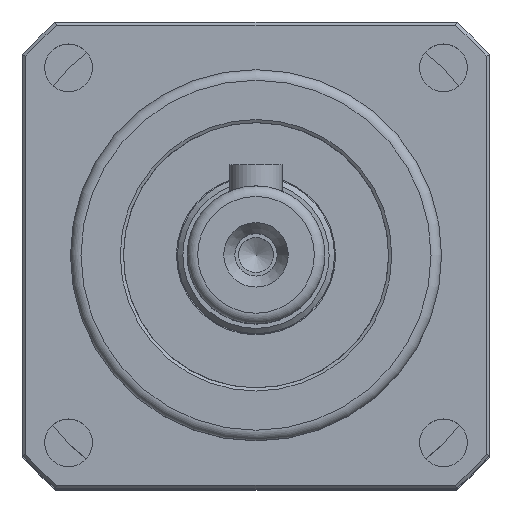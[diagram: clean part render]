
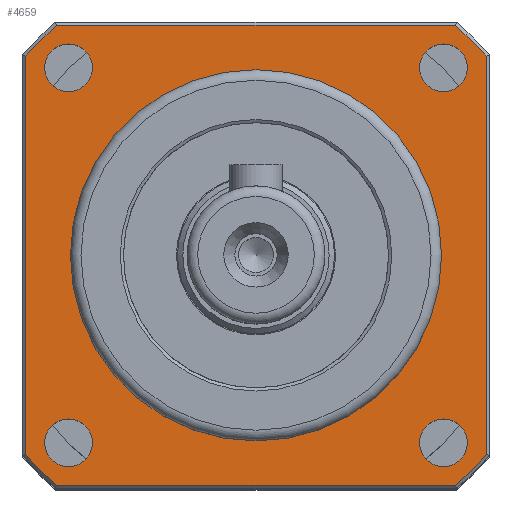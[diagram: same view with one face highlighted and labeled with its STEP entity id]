
A CAD part, top view. The second image highlights one B-rep face of the part: STEP entity #4659.
In plain terms, the highlighted planar face has unit normal (0, 0, 1).
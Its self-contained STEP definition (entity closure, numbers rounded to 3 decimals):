
#3153=CARTESIAN_POINT('',(-15.428,17.678,0.0));
#3154=VERTEX_POINT('',#3153);
#3155=CARTESIAN_POINT('',(-17.678,17.678,0.0));
#3156=DIRECTION('',(0.0,0.0,1.0));
#3157=DIRECTION('',(1.0,0.0,0.0));
#3158=AXIS2_PLACEMENT_3D('',#3155,#3156,#3157);
#3159=CIRCLE('',#3158,2.25);
#3160=EDGE_CURVE('',#3154,#3154,#3159,.T.);
#3181=CARTESIAN_POINT('',(-15.428,-17.678,0.0));
#3182=VERTEX_POINT('',#3181);
#3183=CARTESIAN_POINT('',(-17.678,-17.678,0.0));
#3184=DIRECTION('',(0.0,0.0,1.0));
#3185=DIRECTION('',(1.0,0.0,0.0));
#3186=AXIS2_PLACEMENT_3D('',#3183,#3184,#3185);
#3187=CIRCLE('',#3186,2.25);
#3188=EDGE_CURVE('',#3182,#3182,#3187,.T.);
#3209=CARTESIAN_POINT('',(19.928,-17.678,0.0));
#3210=VERTEX_POINT('',#3209);
#3211=CARTESIAN_POINT('',(17.678,-17.678,0.0));
#3212=DIRECTION('',(0.0,0.0,1.0));
#3213=DIRECTION('',(1.0,0.0,0.0));
#3214=AXIS2_PLACEMENT_3D('',#3211,#3212,#3213);
#3215=CIRCLE('',#3214,2.25);
#3216=EDGE_CURVE('',#3210,#3210,#3215,.T.);
#3237=CARTESIAN_POINT('',(19.928,17.678,0.0));
#3238=VERTEX_POINT('',#3237);
#3239=CARTESIAN_POINT('',(17.678,17.678,0.0));
#3240=DIRECTION('',(0.0,0.0,1.0));
#3241=DIRECTION('',(1.0,0.0,0.0));
#3242=AXIS2_PLACEMENT_3D('',#3239,#3240,#3241);
#3243=CIRCLE('',#3242,2.25);
#3244=EDGE_CURVE('',#3238,#3238,#3243,.T.);
#3257=CARTESIAN_POINT('',(-17.5,0.0,0.0));
#3258=VERTEX_POINT('',#3257);
#3259=CARTESIAN_POINT('',(0.0,0.0,0.0));
#3260=DIRECTION('',(0.0,0.0,1.0));
#3261=DIRECTION('',(1.0,0.0,0.0));
#3262=AXIS2_PLACEMENT_3D('',#3259,#3260,#3261);
#3263=CIRCLE('',#3262,17.5);
#3264=EDGE_CURVE('',#3258,#3258,#3263,.T.);
#4569=CARTESIAN_POINT('',(22.0,-22.,0.0));
#4570=DIRECTION('',(0.0,0.0,1.0));
#4571=DIRECTION('',(1.0,0.0,0.0));
#4572=AXIS2_PLACEMENT_3D('',#4569,#4570,#4571);
#4573=PLANE('',#4572);
#4574=CARTESIAN_POINT('',(-18.783,-21.7,0.0));
#4575=VERTEX_POINT('',#4574);
#4576=CARTESIAN_POINT('',(18.783,-21.7,0.0));
#4577=VERTEX_POINT('',#4576);
#4578=CARTESIAN_POINT('',(-18.783,-21.7,0.0));
#4579=DIRECTION('',(1.0,0.0,0.0));
#4580=VECTOR('',#4579,37.566);
#4581=LINE('',#4578,#4580);
#4582=EDGE_CURVE('',#4575,#4577,#4581,.T.);
#4583=ORIENTED_EDGE('',*,*,#4582,.T.);
#4584=CARTESIAN_POINT('',(21.7,-18.783,0.0));
#4585=VERTEX_POINT('',#4584);
#4586=CARTESIAN_POINT('',(0.0,0.0,0.0));
#4587=DIRECTION('',(0.0,0.0,1.0));
#4588=DIRECTION('',(1.0,0.0,0.0));
#4589=AXIS2_PLACEMENT_3D('',#4586,#4587,#4588);
#4590=CIRCLE('',#4589,28.7);
#4591=EDGE_CURVE('',#4577,#4585,#4590,.T.);
#4592=ORIENTED_EDGE('',*,*,#4591,.T.);
#4593=CARTESIAN_POINT('',(21.7,18.783,0.0));
#4594=VERTEX_POINT('',#4593);
#4595=CARTESIAN_POINT('',(21.7,-18.783,0.0));
#4596=DIRECTION('',(0.0,1.0,0.0));
#4597=VECTOR('',#4596,37.566);
#4598=LINE('',#4595,#4597);
#4599=EDGE_CURVE('',#4585,#4594,#4598,.T.);
#4600=ORIENTED_EDGE('',*,*,#4599,.T.);
#4601=CARTESIAN_POINT('',(18.783,21.7,0.0));
#4602=VERTEX_POINT('',#4601);
#4603=CARTESIAN_POINT('',(0.0,0.0,0.0));
#4604=DIRECTION('',(0.0,0.0,1.0));
#4605=DIRECTION('',(1.0,0.0,0.0));
#4606=AXIS2_PLACEMENT_3D('',#4603,#4604,#4605);
#4607=CIRCLE('',#4606,28.7);
#4608=EDGE_CURVE('',#4594,#4602,#4607,.T.);
#4609=ORIENTED_EDGE('',*,*,#4608,.T.);
#4610=CARTESIAN_POINT('',(-18.783,21.7,0.0));
#4611=VERTEX_POINT('',#4610);
#4612=CARTESIAN_POINT('',(18.783,21.7,0.0));
#4613=DIRECTION('',(-1.0,0.0,0.0));
#4614=VECTOR('',#4613,37.566);
#4615=LINE('',#4612,#4614);
#4616=EDGE_CURVE('',#4602,#4611,#4615,.T.);
#4617=ORIENTED_EDGE('',*,*,#4616,.T.);
#4618=CARTESIAN_POINT('',(-21.7,18.783,0.0));
#4619=VERTEX_POINT('',#4618);
#4620=CARTESIAN_POINT('',(0.0,0.0,0.0));
#4621=DIRECTION('',(0.0,0.0,1.0));
#4622=DIRECTION('',(1.0,0.0,0.0));
#4623=AXIS2_PLACEMENT_3D('',#4620,#4621,#4622);
#4624=CIRCLE('',#4623,28.7);
#4625=EDGE_CURVE('',#4611,#4619,#4624,.T.);
#4626=ORIENTED_EDGE('',*,*,#4625,.T.);
#4627=CARTESIAN_POINT('',(-21.7,-18.783,0.0));
#4628=VERTEX_POINT('',#4627);
#4629=CARTESIAN_POINT('',(-21.7,18.783,0.0));
#4630=DIRECTION('',(0.0,-1.0,0.0));
#4631=VECTOR('',#4630,37.566);
#4632=LINE('',#4629,#4631);
#4633=EDGE_CURVE('',#4619,#4628,#4632,.T.);
#4634=ORIENTED_EDGE('',*,*,#4633,.T.);
#4635=CARTESIAN_POINT('',(0.0,0.0,0.0));
#4636=DIRECTION('',(0.0,0.0,1.0));
#4637=DIRECTION('',(1.0,0.0,0.0));
#4638=AXIS2_PLACEMENT_3D('',#4635,#4636,#4637);
#4639=CIRCLE('',#4638,28.7);
#4640=EDGE_CURVE('',#4628,#4575,#4639,.T.);
#4641=ORIENTED_EDGE('',*,*,#4640,.T.);
#4642=EDGE_LOOP('',(#4583,#4592,#4600,#4609,#4617,#4626,#4634,#4641));
#4643=FACE_OUTER_BOUND('',#4642,.T.);
#4644=ORIENTED_EDGE('',*,*,#3160,.F.);
#4645=EDGE_LOOP('',(#4644));
#4646=FACE_BOUND('',#4645,.T.);
#4647=ORIENTED_EDGE('',*,*,#3188,.F.);
#4648=EDGE_LOOP('',(#4647));
#4649=FACE_BOUND('',#4648,.T.);
#4650=ORIENTED_EDGE('',*,*,#3216,.F.);
#4651=EDGE_LOOP('',(#4650));
#4652=FACE_BOUND('',#4651,.T.);
#4653=ORIENTED_EDGE('',*,*,#3244,.F.);
#4654=EDGE_LOOP('',(#4653));
#4655=FACE_BOUND('',#4654,.T.);
#4656=ORIENTED_EDGE('',*,*,#3264,.F.);
#4657=EDGE_LOOP('',(#4656));
#4658=FACE_BOUND('',#4657,.T.);
#4659=ADVANCED_FACE('',(#4643,#4646,#4649,#4652,#4655,#4658),#4573,.T.);
